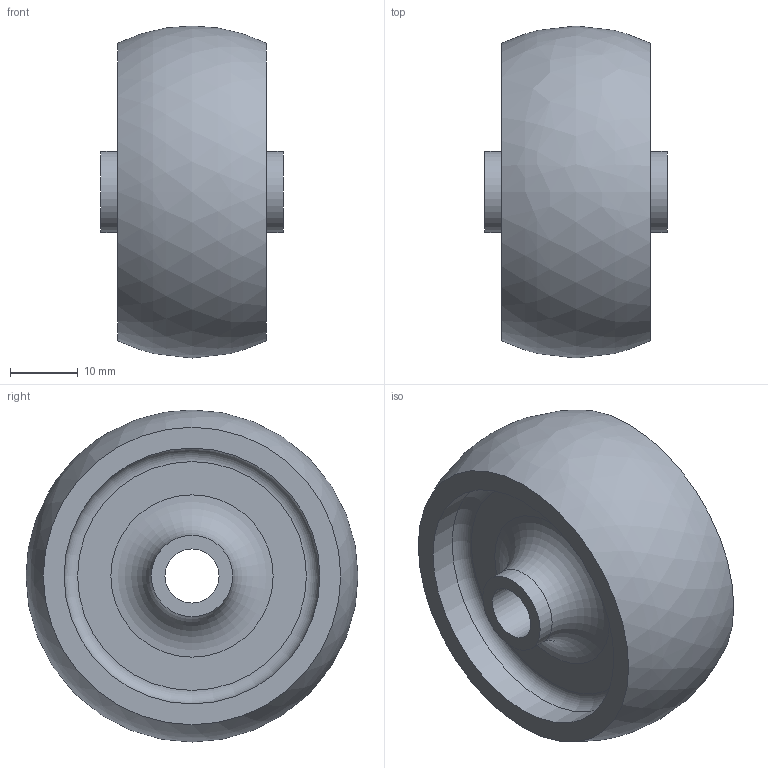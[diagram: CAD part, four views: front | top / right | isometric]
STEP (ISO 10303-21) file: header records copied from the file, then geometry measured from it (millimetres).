
FILE_DESCRIPTION(/* description */ (''),/* implementation_level */ '2;1');
FILE_NAME(/* name */ 'Wheel.stp',/* time_stamp */ '2026-04-29T15:00:01+07:00',/* author */ ('dadan'),/* organization */ (''),/* preprocessor_version */ 'ST-DEVELOPER v20.1',/* originating_system */ 'Autodesk Inventor 2026',/* authorisation */ '');
FILE_SCHEMA (('AUTOMOTIVE_DESIGN { 1 0 10303 214 3 1 1 }'));
Length unit declared in the file: millimetre
Products named in the file (1): Wheel
Bounding box: 27 x 49.1 x 49.1 mm (x, y, z)
Volume: 26900.3 mm3; surface area: 8707 mm2
Topology: 1 solids, 1 shells, 16 faces, 30 edges, 20 vertices
Faces by surface type: plane 6, cylinder 5, torus 4, bspline 1
Full cylindrical faces by diameter (mm): 8 x1, 12 x2, 37.83 x2
Entity records: 488 total; most frequent: CARTESIAN_POINT 93, DIRECTION 87, ORIENTED_EDGE 60, AXIS2_PLACEMENT_3D 41, EDGE_CURVE 30, CIRCLE 25, EDGE_LOOP 22, VERTEX_POINT 20
